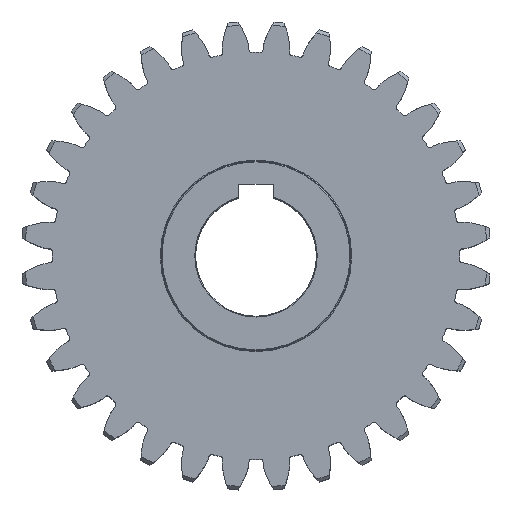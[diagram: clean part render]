
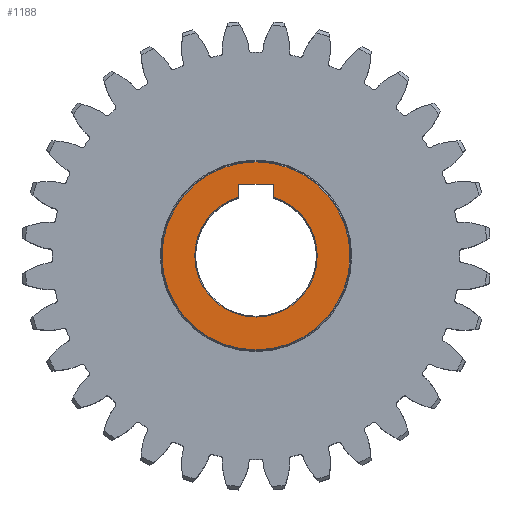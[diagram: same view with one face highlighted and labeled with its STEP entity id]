
A CAD part, top view. The second image highlights one B-rep face of the part: STEP entity #1188.
In plain terms, the highlighted planar face has unit normal (0, 0, 1).
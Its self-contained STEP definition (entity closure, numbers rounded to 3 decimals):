
#425 = EDGE_CURVE ( 'NONE', #19184, #7807, #20997, .T. ) ;
#766 = ORIENTED_EDGE ( 'NONE', *, *, #16271, .T. ) ;
#906 = EDGE_CURVE ( 'NONE', #7807, #3181, #5164, .T. ) ;
#946 = ORIENTED_EDGE ( 'NONE', *, *, #13579, .T. ) ;
#989 = DIRECTION ( 'NONE',  ( 0., 0., -1. ) ) ;
#1188 = ADVANCED_FACE ( 'NONE', ( #3038, #14380 ), #4407, .T. ) ;
#1198 = DIRECTION ( 'NONE',  ( 0., 0., 1. ) ) ;
#1389 = CARTESIAN_POINT ( 'NONE',  ( -5., 17.031, 25. ) ) ;
#1509 = CARTESIAN_POINT ( 'NONE',  ( 0., 0., 25. ) ) ;
#1623 = CARTESIAN_POINT ( 'NONE',  ( 5., 17.031, 25. ) ) ;
#1697 = DIRECTION ( 'NONE',  ( 0., 0., 1. ) ) ;
#1935 = EDGE_CURVE ( 'NONE', #3181, #5397, #7084, .T. ) ;
#2040 = DIRECTION ( 'NONE',  ( 0., 0., -1. ) ) ;
#2202 = AXIS2_PLACEMENT_3D ( 'NONE', #1509, #2040, #2352 ) ;
#2323 = VERTEX_POINT ( 'NONE', #1623 ) ;
#2352 = DIRECTION ( 'NONE',  ( 1., 0., 0. ) ) ;
#3038 = FACE_OUTER_BOUND ( 'NONE', #10490, .T. ) ;
#3157 = EDGE_CURVE ( 'NONE', #5397, #2323, #16704, .T. ) ;
#3181 = VERTEX_POINT ( 'NONE', #6914 ) ;
#3388 = DIRECTION ( 'NONE',  ( 1., 0., 0. ) ) ;
#3432 = VECTOR ( 'NONE', #3851, 1000. ) ;
#3635 = ORIENTED_EDGE ( 'NONE', *, *, #10523, .T. ) ;
#3816 = DIRECTION ( 'NONE',  ( 1., 0., 0. ) ) ;
#3851 = DIRECTION ( 'NONE',  ( 0., -1., 0. ) ) ;
#3967 = VERTEX_POINT ( 'NONE', #4011 ) ;
#3999 = VECTOR ( 'NONE', #11634, 1000. ) ;
#4011 = CARTESIAN_POINT ( 'NONE',  ( 17.75, 0., 25. ) ) ;
#4034 = CIRCLE ( 'NONE', #12160, 27.25 ) ;
#4407 = PLANE ( 'NONE',  #14523 ) ;
#5164 = LINE ( 'NONE', #14936, #3999 ) ;
#5293 = CARTESIAN_POINT ( 'NONE',  ( 5., 20.8, 25. ) ) ;
#5397 = VERTEX_POINT ( 'NONE', #20298 ) ;
#5950 = ORIENTED_EDGE ( 'NONE', *, *, #3157, .T. ) ;
#5966 = DIRECTION ( 'NONE',  ( 1., 0., 0. ) ) ;
#6095 = CARTESIAN_POINT ( 'NONE',  ( 0., 0., 25. ) ) ;
#6914 = CARTESIAN_POINT ( 'NONE',  ( -5., 20.8, 25. ) ) ;
#7084 = LINE ( 'NONE', #5293, #21011 ) ;
#7134 = ORIENTED_EDGE ( 'NONE', *, *, #425, .T. ) ;
#7602 = CIRCLE ( 'NONE', #2202, 17.75 ) ;
#7807 = VERTEX_POINT ( 'NONE', #1389 ) ;
#8153 = DIRECTION ( 'NONE',  ( 1., 0., 0. ) ) ;
#9034 = CARTESIAN_POINT ( 'NONE',  ( 0., 0., 25. ) ) ;
#10490 = EDGE_LOOP ( 'NONE', ( #3635, #19707 ) ) ;
#10523 = EDGE_CURVE ( 'NONE', #12575, #18699, #4034, .T. ) ;
#10730 = CARTESIAN_POINT ( 'NONE',  ( 0., 0., 25. ) ) ;
#11017 = CIRCLE ( 'NONE', #20199, 27.25 ) ;
#11634 = DIRECTION ( 'NONE',  ( 0., 1., 0. ) ) ;
#12160 = AXIS2_PLACEMENT_3D ( 'NONE', #10730, #1198, #17032 ) ;
#12575 = VERTEX_POINT ( 'NONE', #19935 ) ;
#13251 = CARTESIAN_POINT ( 'NONE',  ( 0., 0., 25. ) ) ;
#13579 = EDGE_CURVE ( 'NONE', #2323, #3967, #15101, .T. ) ;
#14380 = FACE_BOUND ( 'NONE', #18215, .T. ) ;
#14523 = AXIS2_PLACEMENT_3D ( 'NONE', #6095, #20664, #20869 ) ;
#14535 = CARTESIAN_POINT ( 'NONE',  ( 0., 0., 25. ) ) ;
#14685 = CARTESIAN_POINT ( 'NONE',  ( 5., 14.2, 25. ) ) ;
#14899 = AXIS2_PLACEMENT_3D ( 'NONE', #9034, #989, #5966 ) ;
#14936 = CARTESIAN_POINT ( 'NONE',  ( -5., 14.2, 25. ) ) ;
#15101 = CIRCLE ( 'NONE', #15442, 17.75 ) ;
#15442 = AXIS2_PLACEMENT_3D ( 'NONE', #13251, #19635, #3388 ) ;
#15481 = CARTESIAN_POINT ( 'NONE',  ( 27.25, 0., 25. ) ) ;
#15723 = ORIENTED_EDGE ( 'NONE', *, *, #906, .T. ) ;
#16271 = EDGE_CURVE ( 'NONE', #3967, #19184, #7602, .T. ) ;
#16704 = LINE ( 'NONE', #14685, #3432 ) ;
#16767 = EDGE_CURVE ( 'NONE', #18699, #12575, #11017, .T. ) ;
#17032 = DIRECTION ( 'NONE',  ( 1., 0., 0. ) ) ;
#18215 = EDGE_LOOP ( 'NONE', ( #5950, #946, #766, #7134, #15723, #20577 ) ) ;
#18699 = VERTEX_POINT ( 'NONE', #15481 ) ;
#19184 = VERTEX_POINT ( 'NONE', #20282 ) ;
#19635 = DIRECTION ( 'NONE',  ( 0., 0., -1. ) ) ;
#19707 = ORIENTED_EDGE ( 'NONE', *, *, #16767, .T. ) ;
#19935 = CARTESIAN_POINT ( 'NONE',  ( -27.25, 0., 25. ) ) ;
#20199 = AXIS2_PLACEMENT_3D ( 'NONE', #14535, #1697, #8153 ) ;
#20282 = CARTESIAN_POINT ( 'NONE',  ( -17.75, 0., 25. ) ) ;
#20298 = CARTESIAN_POINT ( 'NONE',  ( 5., 20.8, 25. ) ) ;
#20577 = ORIENTED_EDGE ( 'NONE', *, *, #1935, .T. ) ;
#20664 = DIRECTION ( 'NONE',  ( 0., 0., 1. ) ) ;
#20869 = DIRECTION ( 'NONE',  ( 1., 0., 0. ) ) ;
#20997 = CIRCLE ( 'NONE', #14899, 17.75 ) ;
#21011 = VECTOR ( 'NONE', #3816, 1000. ) ;
